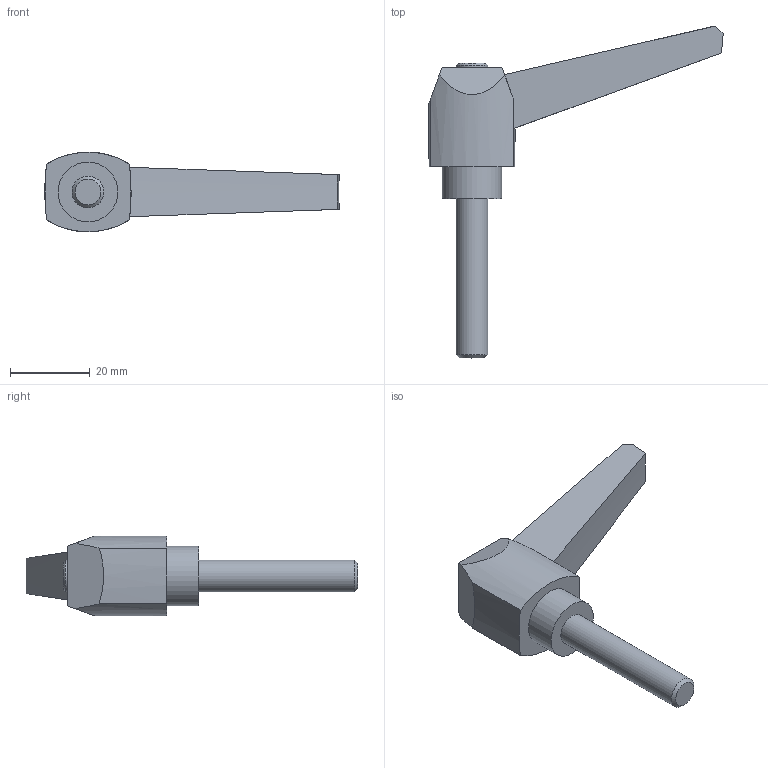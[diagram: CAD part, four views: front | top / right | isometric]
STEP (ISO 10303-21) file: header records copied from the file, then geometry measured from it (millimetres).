
FILE_DESCRIPTION( ( 'STEP AP203' ), '1' );
FILE_NAME( 'C:/Temp/Ganter_Step_05_03_2020/data/2_1/gn_500/gn_500_ms/Adjustable hand lever GN 500-63-M8-40-SW.stp', '2020-03-05T11:26:35', ( 'License CC BY-ND 4.0' ), ( 'CADENAS' ), ' ', 'PARTsolutions', ' ' );
FILE_SCHEMA( ( 'CONFIG_CONTROL_DESIGN' ) );
Length unit declared in the file: millimetre
Products named in the file (1): _Adjustable hand lever GN 500-63-M8-40-SW
Bounding box: 73.9 x 83.35 x 19.99 mm (x, y, z)
Volume: 18498 mm3; surface area: 5968.8 mm2
Topology: 1 solids, 1 shells, 24 faces, 56 edges, 37 vertices
Faces by surface type: plane 11, cylinder 7, cone 6
Full cylindrical faces by diameter (mm): 8 x2, 15 x1
Entity records: 708 total; most frequent: DIRECTION 122, CARTESIAN_POINT 117, ORIENTED_EDGE 100, EDGE_CURVE 50, AXIS2_PLACEMENT_3D 49, VERTEX_POINT 36, EDGE_LOOP 32, FACE_OUTER_BOUND 27
